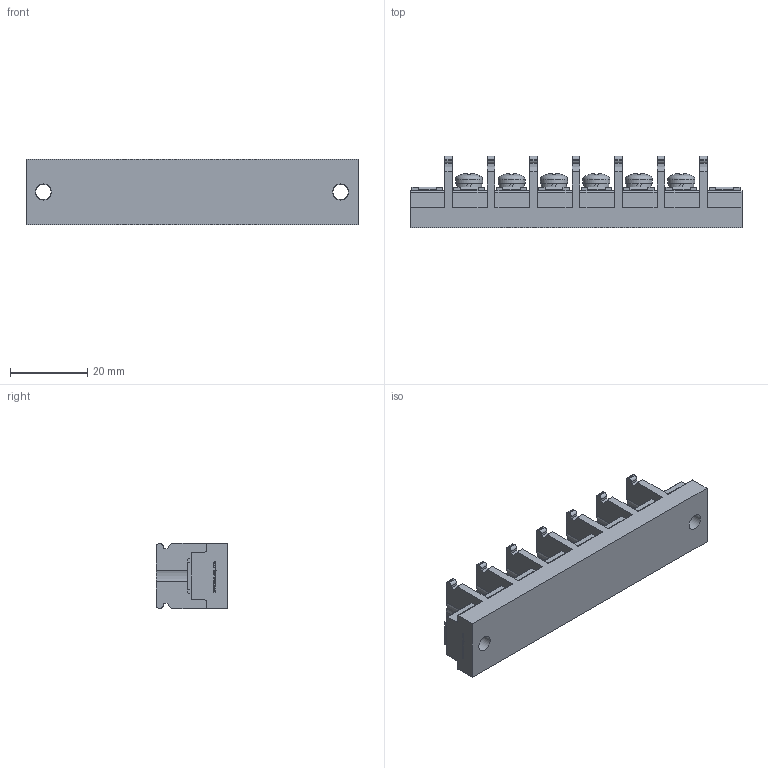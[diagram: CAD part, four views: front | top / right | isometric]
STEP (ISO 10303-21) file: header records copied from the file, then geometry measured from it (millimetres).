
FILE_DESCRIPTION(/* description */ ('Alibre Inc.'),/* implementation_level */ '2;1');
FILE_NAME(/* name */ 'export0',/* time_stamp */ '2015-10-19T19:22:20+09:00',/* author */ (''),/* organization */ (''),/* preprocessor_version */ 'ST-DEVELOPER v14',/* originating_system */ 'Alibre',/* authorisation */ '');
FILE_SCHEMA (('CONFIG_CONTROL_DESIGN'));
Length unit declared in the file: centimetre
Products named in the file (1): ID_1
Bounding box: 86 x 18.5 x 17 mm (x, y, z)
Volume: 15334.3 mm3; surface area: 8591.9 mm2
Topology: 1 solids, 1 shells, 864 faces, 2402 edges, 1596 vertices
Faces by surface type: plane 606, cylinder 112, bspline 104, cone 24, torus 12, sphere 6
Full cylindrical faces by diameter (mm): 4 x8, 4.2 x2, 6.5 x6, 7 x6
Entity records: 26819 total; most frequent: CARTESIAN_POINT 5900, ORIENTED_EDGE 4708, DIRECTION 3389, EDGE_CURVE 2354, VECTOR 1687, LINE 1687, VERTEX_POINT 1576, AXIS2_PLACEMENT_3D 1149
